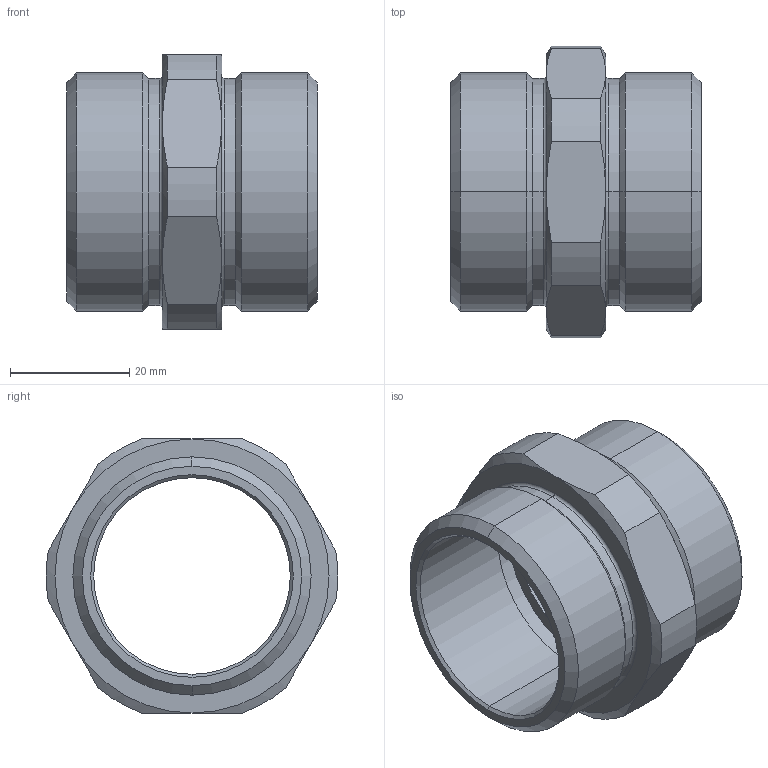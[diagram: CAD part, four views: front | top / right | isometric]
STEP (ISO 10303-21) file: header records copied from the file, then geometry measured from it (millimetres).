
FILE_DESCRIPTION (( 'STEP AP203' ), '1' );
FILE_NAME ('ﾍﾂﾍ4Mﾍ.STEP', '2019-06-05T11:19:15', ( '' ), ( '' ), 'SwSTEP 2.0', 'SolidWorks 2012', '' );
FILE_SCHEMA (( 'CONFIG_CONTROL_DESIGN' ));
Length unit declared in the file: millimetre
Products named in the file (1): ﾍﾂﾍ4Mﾍ
Bounding box: 42 x 48.92 x 46 mm (x, y, z)
Volume: 20184.7 mm3; surface area: 12074.8 mm2
Topology: 1 solids, 1 shells, 60 faces, 130 edges, 76 vertices
Faces by surface type: cone 24, cylinder 20, plane 12, torus 4
Entity records: 1811 total; most frequent: CARTESIAN_POINT 419, DIRECTION 296, ORIENTED_EDGE 260, EDGE_CURVE 130, AXIS2_PLACEMENT_3D 129, VERTEX_POINT 76, CIRCLE 68, EDGE_LOOP 66
